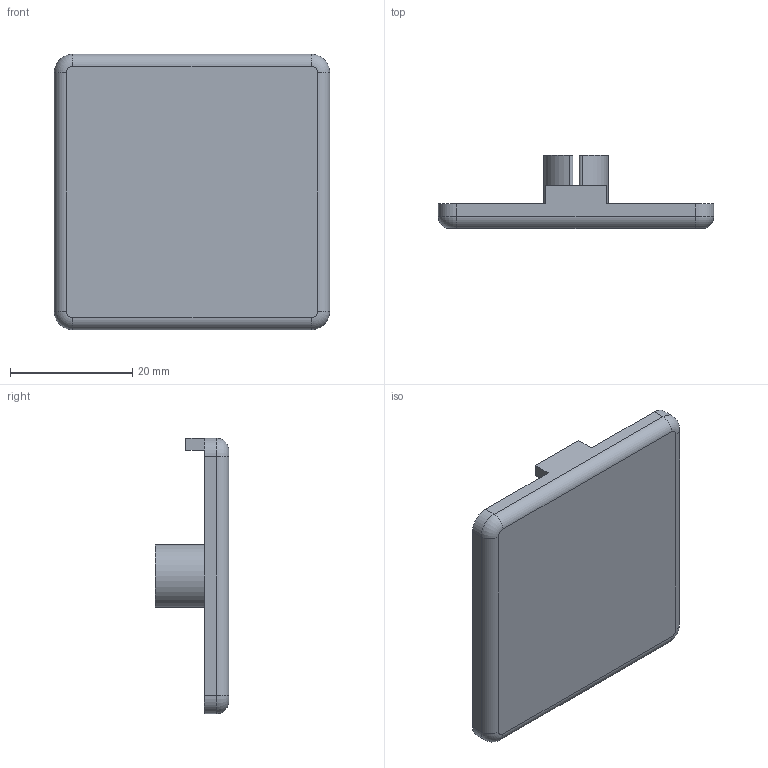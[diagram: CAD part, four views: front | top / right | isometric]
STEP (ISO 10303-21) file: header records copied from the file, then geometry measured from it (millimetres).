
FILE_DESCRIPTION (( 'STEP AP214' ), '1' );
FILE_NAME ('4004 Òîðöåâàÿ çàãëóøêà 45õ45.STEP', '2017-08-10T06:12:55', ( '' ), ( '' ), 'SwSTEP 2.0', 'SolidWorks 2014', '' );
FILE_SCHEMA (( 'AUTOMOTIVE_DESIGN' ));
Length unit declared in the file: millimetre
Products named in the file (2): 4004 Òîðöåâàÿ çàãëóøêà 45õ45
Bounding box: 45 x 12 x 45 mm (x, y, z)
Volume: 4968.6 mm3; surface area: 5545.4 mm2
Topology: 1 solids, 1 shells, 50 faces, 130 edges, 84 vertices
Faces by surface type: cylinder 26, plane 20, torus 4
Entity records: 1595 total; most frequent: DIRECTION 290, CARTESIAN_POINT 266, ORIENTED_EDGE 260, EDGE_CURVE 130, AXIS2_PLACEMENT_3D 108, VERTEX_POINT 84, LINE 74, VECTOR 74
